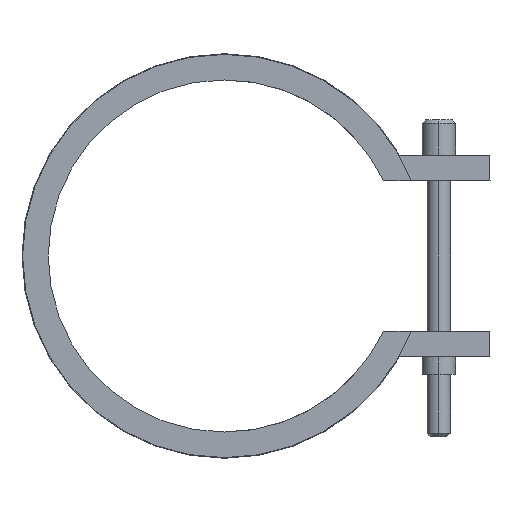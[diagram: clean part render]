
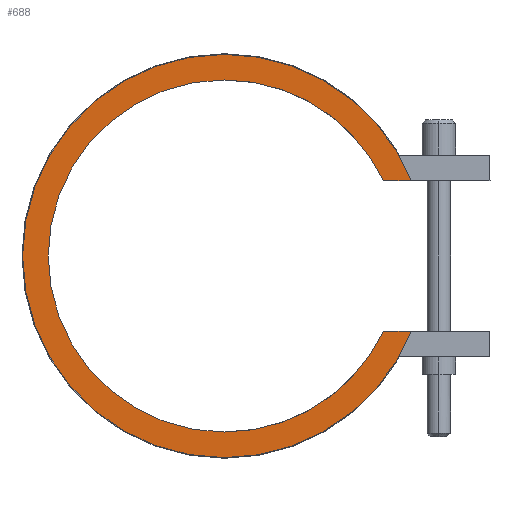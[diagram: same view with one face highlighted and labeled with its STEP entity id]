
A CAD part, left-side view. The second image highlights one B-rep face of the part: STEP entity #688.
In plain terms, the highlighted planar face has unit normal (-1, 0, 0).
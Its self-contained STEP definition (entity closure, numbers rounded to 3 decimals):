
#299=CARTESIAN_POINT('Axis2P3D Location',(-15.,0.,0.)) ;
#303=CARTESIAN_POINT('Vertex',(-15.,-24.863,-11.75)) ;
#305=CARTESIAN_POINT('Vertex',(-15.,0.,-27.5)) ;
#352=CARTESIAN_POINT('Line Origine',(-15.,-27.045,-11.75)) ;
#356=CARTESIAN_POINT('Vertex',(-15.,-29.226,-11.75)) ;
#404=CARTESIAN_POINT('Vertex',(-15.,-24.863,11.75)) ;
#407=CARTESIAN_POINT('Axis2P3D Location',(-15.,0.,0.)) ;
#411=CARTESIAN_POINT('Vertex',(-15.,0.,27.5)) ;
#432=CARTESIAN_POINT('Axis2P3D Location',(-15.,0.,0.)) ;
#647=CARTESIAN_POINT('Axis2P3D Location',(-15.,0.,0.)) ;
#652=CARTESIAN_POINT('Line Origine',(-15.,-27.045,11.75)) ;
#656=CARTESIAN_POINT('Vertex',(-15.,-29.226,11.75)) ;
#659=CARTESIAN_POINT('Axis2P3D Location',(-15.,0.,0.)) ;
#663=CARTESIAN_POINT('Vertex',(-15.,0.,31.5)) ;
#666=CARTESIAN_POINT('Axis2P3D Location',(-15.,0.,0.)) ;
#670=CARTESIAN_POINT('Vertex',(-15.,0.,-31.5)) ;
#673=CARTESIAN_POINT('Axis2P3D Location',(-15.,0.,0.)) ;
#300=DIRECTION('Axis2P3D Direction',(1.,0.,-0.)) ;
#353=DIRECTION('Vector Direction',(0.,1.,0.)) ;
#408=DIRECTION('Axis2P3D Direction',(1.,0.,-0.)) ;
#433=DIRECTION('Axis2P3D Direction',(1.,0.,-0.)) ;
#648=DIRECTION('Axis2P3D Direction',(1.,0.,0.)) ;
#649=DIRECTION('Axis2P3D XDirection',(0.,0.,-1.)) ;
#653=DIRECTION('Vector Direction',(0.,-1.,0.)) ;
#660=DIRECTION('Axis2P3D Direction',(1.,0.,0.)) ;
#667=DIRECTION('Axis2P3D Direction',(1.,0.,0.)) ;
#674=DIRECTION('Axis2P3D Direction',(1.,0.,0.)) ;
#301=AXIS2_PLACEMENT_3D('Circle Axis2P3D',#299,#300,$) ;
#409=AXIS2_PLACEMENT_3D('Circle Axis2P3D',#407,#408,$) ;
#434=AXIS2_PLACEMENT_3D('Circle Axis2P3D',#432,#433,$) ;
#650=AXIS2_PLACEMENT_3D('Plane Axis2P3D',#647,#648,#649) ;
#661=AXIS2_PLACEMENT_3D('Circle Axis2P3D',#659,#660,$) ;
#668=AXIS2_PLACEMENT_3D('Circle Axis2P3D',#666,#667,$) ;
#675=AXIS2_PLACEMENT_3D('Circle Axis2P3D',#673,#674,$) ;
#679=ORIENTED_EDGE('',*,*,#358,.T.) ;
#680=ORIENTED_EDGE('',*,*,#307,.T.) ;
#681=ORIENTED_EDGE('',*,*,#436,.T.) ;
#682=ORIENTED_EDGE('',*,*,#413,.T.) ;
#683=ORIENTED_EDGE('',*,*,#658,.T.) ;
#684=ORIENTED_EDGE('',*,*,#665,.F.) ;
#685=ORIENTED_EDGE('',*,*,#672,.F.) ;
#686=ORIENTED_EDGE('',*,*,#677,.F.) ;
#354=VECTOR('Line Direction',#353,1.) ;
#654=VECTOR('Line Direction',#653,1.) ;
#688=ADVANCED_FACE('14055030',(#687),#651,.F.) ;
#302=CIRCLE('generated circle',#301,27.5) ;
#410=CIRCLE('generated circle',#409,27.5) ;
#435=CIRCLE('generated circle',#434,27.5) ;
#662=CIRCLE('generated circle',#661,31.5) ;
#669=CIRCLE('generated circle',#668,31.5) ;
#676=CIRCLE('generated circle',#675,31.5) ;
#307=EDGE_CURVE('',#304,#306,#302,.T.) ;
#358=EDGE_CURVE('',#357,#304,#355,.T.) ;
#413=EDGE_CURVE('',#412,#405,#410,.T.) ;
#436=EDGE_CURVE('',#306,#412,#435,.T.) ;
#658=EDGE_CURVE('',#405,#657,#655,.T.) ;
#665=EDGE_CURVE('',#664,#657,#662,.T.) ;
#672=EDGE_CURVE('',#671,#664,#669,.T.) ;
#677=EDGE_CURVE('',#357,#671,#676,.T.) ;
#678=EDGE_LOOP('',(#679,#680,#681,#682,#683,#684,#685,#686)) ;
#687=FACE_OUTER_BOUND('',#678,.T.) ;
#355=LINE('Line',#352,#354) ;
#655=LINE('Line',#652,#654) ;
#651=PLANE('Plane',#650) ;
#304=VERTEX_POINT('',#303) ;
#306=VERTEX_POINT('',#305) ;
#357=VERTEX_POINT('',#356) ;
#405=VERTEX_POINT('',#404) ;
#412=VERTEX_POINT('',#411) ;
#657=VERTEX_POINT('',#656) ;
#664=VERTEX_POINT('',#663) ;
#671=VERTEX_POINT('',#670) ;
